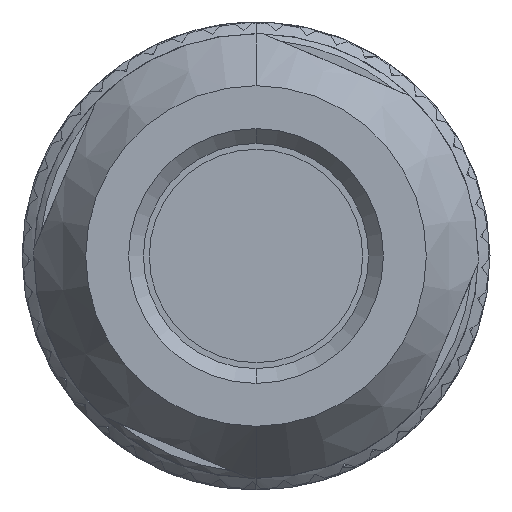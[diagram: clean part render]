
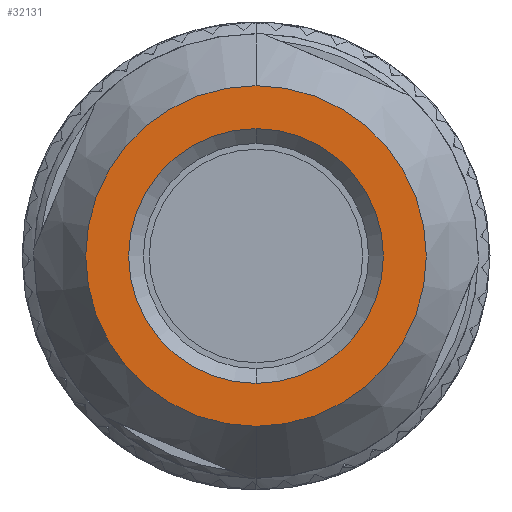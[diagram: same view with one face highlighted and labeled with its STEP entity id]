
A CAD part, left-side view. The second image highlights one B-rep face of the part: STEP entity #32131.
In plain terms, the highlighted planar face has unit normal (-1, 0, 0).
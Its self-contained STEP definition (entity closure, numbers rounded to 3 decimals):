
#3429 = EDGE_CURVE ( 'NONE', #49891, #14640, #57824, .T. ) ;
#6186 = CARTESIAN_POINT ( 'NONE',  ( -33.458, 7.356, 14.94 ) ) ;
#8355 = DIRECTION ( 'NONE',  ( 1., 0., 0. ) ) ;
#14640 = VERTEX_POINT ( 'NONE', #73857 ) ;
#16216 = DIRECTION ( 'NONE',  ( 0., 0., 1. ) ) ;
#18397 = ORIENTED_EDGE ( 'NONE', *, *, #91056, .T. ) ;
#20822 = AXIS2_PLACEMENT_3D ( 'NONE', #65336, #51119, #44455 ) ;
#25117 = FACE_BOUND ( 'NONE', #31044, .T. ) ;
#25712 = EDGE_CURVE ( 'NONE', #53538, #69321, #64911, .T. ) ;
#29711 = ORIENTED_EDGE ( 'NONE', *, *, #3429, .F. ) ;
#31044 = EDGE_LOOP ( 'NONE', ( #18397, #58344 ) ) ;
#32131 = ADVANCED_FACE ( 'NONE', ( #63467, #25117 ), #44141, .T. ) ;
#32388 = CARTESIAN_POINT ( 'NONE',  ( -33.458, 7.356, 10.64 ) ) ;
#34057 = DIRECTION ( 'NONE',  ( 1., 0., 0. ) ) ;
#36679 = EDGE_CURVE ( 'NONE', #14640, #49891, #56137, .T. ) ;
#41116 = CARTESIAN_POINT ( 'NONE',  ( -33.458, 7.356, 10.64 ) ) ;
#41929 = CARTESIAN_POINT ( 'NONE',  ( -33.458, 7.356, 4.89 ) ) ;
#43033 = CARTESIAN_POINT ( 'NONE',  ( -33.458, 7.356, 6.34 ) ) ;
#44141 = PLANE ( 'NONE',  #20822 ) ;
#44455 = DIRECTION ( 'NONE',  ( 0., -1., 0. ) ) ;
#46693 = AXIS2_PLACEMENT_3D ( 'NONE', #80940, #8355, #16216 ) ;
#49891 = VERTEX_POINT ( 'NONE', #41929 ) ;
#51119 = DIRECTION ( 'NONE',  ( -1., 0., 0. ) ) ;
#51200 = AXIS2_PLACEMENT_3D ( 'NONE', #41116, #92228, #55661 ) ;
#53538 = VERTEX_POINT ( 'NONE', #43033 ) ;
#54156 = DIRECTION ( 'NONE',  ( 0., 0., -1. ) ) ;
#55661 = DIRECTION ( 'NONE',  ( 0., 0., -1. ) ) ;
#56137 = CIRCLE ( 'NONE', #51200, 5.75 ) ;
#57824 = CIRCLE ( 'NONE', #88504, 5.75 ) ;
#58344 = ORIENTED_EDGE ( 'NONE', *, *, #25712, .T. ) ;
#63467 = FACE_OUTER_BOUND ( 'NONE', #81871, .T. ) ;
#64911 = CIRCLE ( 'NONE', #46693, 4.3 ) ;
#65336 = CARTESIAN_POINT ( 'NONE',  ( -33.458, 7.356, 10.64 ) ) ;
#69093 = CARTESIAN_POINT ( 'NONE',  ( -33.458, 7.356, 10.64 ) ) ;
#69321 = VERTEX_POINT ( 'NONE', #6186 ) ;
#70143 = CIRCLE ( 'NONE', #89652, 4.3 ) ;
#73857 = CARTESIAN_POINT ( 'NONE',  ( -33.458, 7.356, 16.39 ) ) ;
#80940 = CARTESIAN_POINT ( 'NONE',  ( -33.458, 7.356, 10.64 ) ) ;
#81871 = EDGE_LOOP ( 'NONE', ( #29711, #87351 ) ) ;
#82886 = DIRECTION ( 'NONE',  ( 1., 0., 0. ) ) ;
#84556 = DIRECTION ( 'NONE',  ( 0., 0., 1. ) ) ;
#87351 = ORIENTED_EDGE ( 'NONE', *, *, #36679, .F. ) ;
#88504 = AXIS2_PLACEMENT_3D ( 'NONE', #32388, #82886, #54156 ) ;
#89652 = AXIS2_PLACEMENT_3D ( 'NONE', #69093, #34057, #84556 ) ;
#91056 = EDGE_CURVE ( 'NONE', #69321, #53538, #70143, .T. ) ;
#92228 = DIRECTION ( 'NONE',  ( 1., 0., 0. ) ) ;
